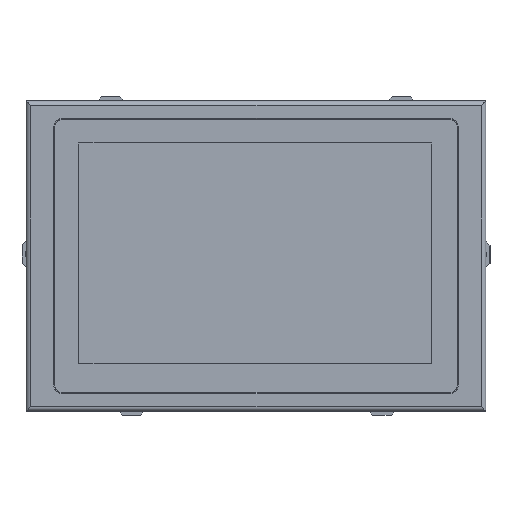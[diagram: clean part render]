
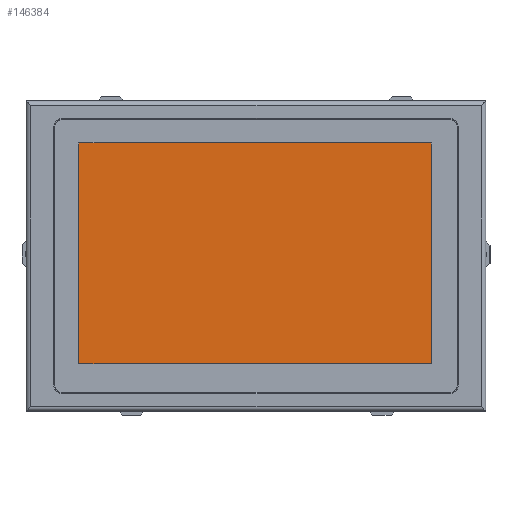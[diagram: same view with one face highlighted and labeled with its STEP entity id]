
A CAD part, top view. The second image highlights one B-rep face of the part: STEP entity #146384.
In plain terms, the highlighted planar face has unit normal (0, 0, 1).
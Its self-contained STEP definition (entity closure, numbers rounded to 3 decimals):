
#6020=FACE_OUTER_BOUND('',#13778,.T.);
#13778=EDGE_LOOP('',(#99611,#99612,#99613,#99614));
#27969=LINE('',#214478,#43864);
#27970=LINE('',#214480,#43865);
#27971=LINE('',#214482,#43866);
#27972=LINE('',#214483,#43867);
#43864=VECTOR('',#172841,1000.);
#43865=VECTOR('',#172842,1000.);
#43866=VECTOR('',#172843,1000.);
#43867=VECTOR('',#172844,1000.);
#59320=VERTEX_POINT('',#214476);
#59321=VERTEX_POINT('',#214477);
#59322=VERTEX_POINT('',#214479);
#59323=VERTEX_POINT('',#214481);
#74419=EDGE_CURVE('',#59320,#59321,#27969,.T.);
#74420=EDGE_CURVE('',#59322,#59320,#27970,.T.);
#74421=EDGE_CURVE('',#59323,#59322,#27971,.T.);
#74422=EDGE_CURVE('',#59321,#59323,#27972,.T.);
#99611=ORIENTED_EDGE('',*,*,#74419,.T.);
#99612=ORIENTED_EDGE('',*,*,#74422,.T.);
#99613=ORIENTED_EDGE('',*,*,#74421,.T.);
#99614=ORIENTED_EDGE('',*,*,#74420,.T.);
#133471=PLANE('',#154752);
#146384=ADVANCED_FACE('',(#6020),#133471,.F.);
#154752=AXIS2_PLACEMENT_3D('',#214484,#172845,#172846);
#172841=DIRECTION('',(0.,-1.,0.));
#172842=DIRECTION('',(-1.,0.,0.));
#172843=DIRECTION('',(0.,1.,0.));
#172844=DIRECTION('',(1.,0.,0.));
#172845=DIRECTION('center_axis',(0.,0.,
-1.));
#172846=DIRECTION('ref_axis',(-1.,0.,0.));
#214476=CARTESIAN_POINT('',(-151.848,68.226,13.149));
#214477=CARTESIAN_POINT('',(-151.848,-68.174,13.149));
#214478=CARTESIAN_POINT('',(-151.848,-68.174,13.149));
#214479=CARTESIAN_POINT('',(65.852,68.226,13.149));
#214480=CARTESIAN_POINT('',(-151.848,68.226,13.149));
#214481=CARTESIAN_POINT('',(65.852,-68.174,13.149));
#214482=CARTESIAN_POINT('',(65.852,68.226,13.149));
#214483=CARTESIAN_POINT('',(65.852,-68.174,13.149));
#214484=CARTESIAN_POINT('Origin',(-166.878,-86.004,13.149));
